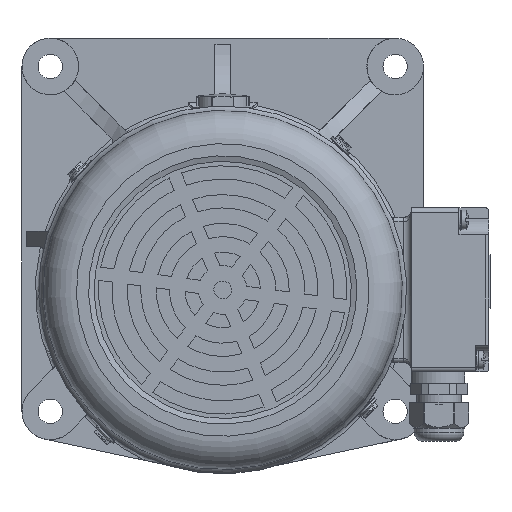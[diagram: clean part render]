
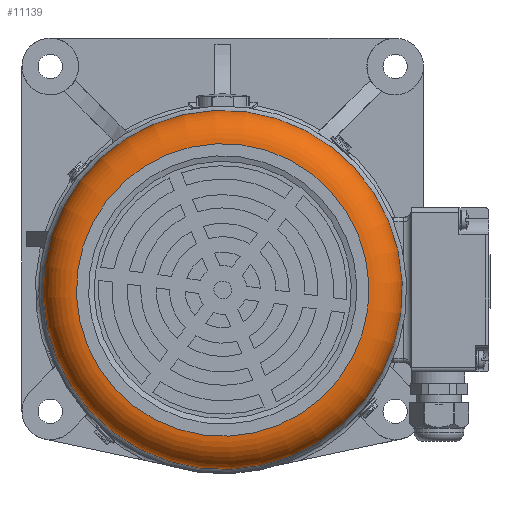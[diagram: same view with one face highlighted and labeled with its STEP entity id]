
A CAD part, left-side view. The second image highlights one B-rep face of the part: STEP entity #11139.
In plain terms, the highlighted toroidal (fillet/blend) face has major radius 66 mm and minor radius 15 mm.
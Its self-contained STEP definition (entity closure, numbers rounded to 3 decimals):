
#458=TOROIDAL_SURFACE('',#38817,66.,15.);
#11139=ADVANCED_FACE('',(#12509,#12510),#458,.T.);
#12509=FACE_BOUND('',#14137,.T.);
#12510=FACE_BOUND('',#14138,.T.);
#14137=EDGE_LOOP('',(#20193));
#14138=EDGE_LOOP('',(#20194));
#20193=ORIENTED_EDGE('',*,*,#32409,.F.);
#20194=ORIENTED_EDGE('',*,*,#29907,.T.);
#26310=VERTEX_POINT('',#51560);
#27984=VERTEX_POINT('',#57609);
#29907=EDGE_CURVE('',#26310,#26310,#35112,.T.);
#32409=EDGE_CURVE('',#27984,#27984,#35923,.T.);
#35112=CIRCLE('',#37030,66.);
#35923=CIRCLE('',#38815,81.);
#37030=AXIS2_PLACEMENT_3D('',#51559,#41326,#41327);
#38815=AXIS2_PLACEMENT_3D('',#57608,#46308,#46309);
#38817=AXIS2_PLACEMENT_3D('',#57611,#46312,#46313);
#41326=DIRECTION('',(1.,0.,0.));
#41327=DIRECTION('',(0.,0.609,-0.793));
#46308=DIRECTION('',(1.,0.,0.));
#46309=DIRECTION('',(0.,0.609,-0.793));
#46312=DIRECTION('',(1.,0.,0.));
#46313=DIRECTION('',(0.,0.609,-0.793));
#51559=CARTESIAN_POINT('',(-369.769,-230.798,0.));
#51560=CARTESIAN_POINT('',(-369.769,-190.62,-52.361));
#57608=CARTESIAN_POINT('',(-354.769,-230.798,0.));
#57609=CARTESIAN_POINT('',(-354.769,-181.489,-64.262));
#57611=CARTESIAN_POINT('',(-354.769,-230.798,0.));
